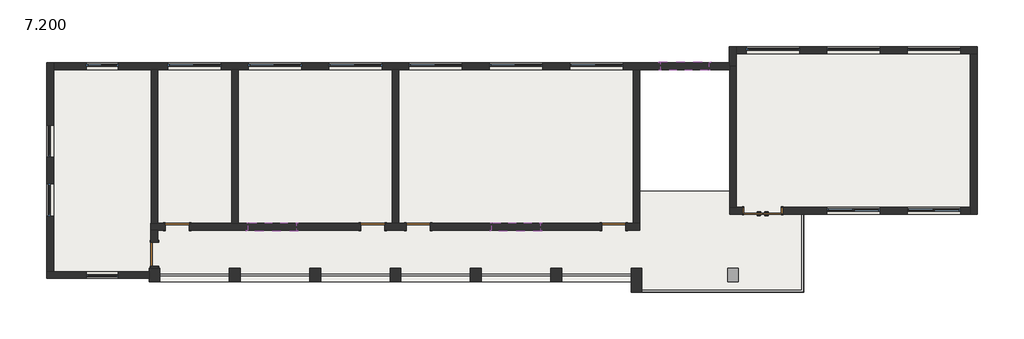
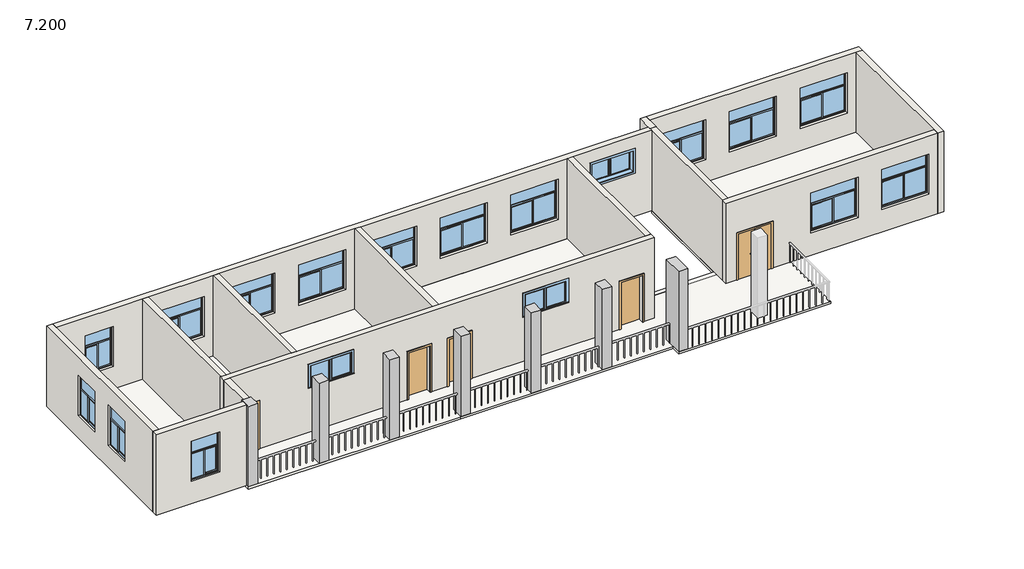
# One storey, part 1 of 2: 18 windows, 14 walls, 7 columns, 6 doors, 1 slab.
"""IFC4 building model written with IfcOpenShell, lengths in millimetres."""

from ifc_helpers import new_model, si_unit, frame, origin, place, context, project, spatial, polyline, outline, extrude, faceted_brep, transform, mapped, element, save
from components import column_400x500mm_8f91d95e, column_400x900mm_e0d5c409, m1_f3cb3123, m1_ab81c9c2, m2_54796214, c1_54542c8d, c2_93fe3833, c3_c6347dd0

model = new_model("IFC4")

# Units and contexts
model_context = context("Model", 3, world=origin())
ifc_project = project(units=[si_unit("LENGTHUNIT", "METRE", prefix="MILLI")], contexts=[model_context])

# Site, building, storey
site = spatial("IfcSite", under=ifc_project)
building = spatial("IfcBuilding", under=site)
storey = spatial("IfcBuildingStorey", under=building, Name="7.200", Elevation=7200.0)

# Columns
placement = place(None, origin())
element("IfcColumn", 1, ObjectType="混凝土 - 矩形 - 柱 : 400X500mm", at=placement, inside=storey, context=model_context, shape_type="Brep", body=[
    faceted_brep([(-19259.1214542, -25688.2373497, 7200.0), (-19259.1214542, -26188.2373497, 7200.0), (-19659.1214542, -26188.2373497, 7200.0), (-19659.1214542, -26068.2373497, 7200.0), (-19659.1214542, -25808.2373497, 7200.0), (-19659.1214542, -25688.2373497, 7200.0), (-19589.1214542, -25688.2373497, 7200.0), (-19329.1214542, -25688.2373497, 7200.0), (-19259.1214542, -25688.2373497, 10800.0), (-19259.1214542, -26188.2373497, 10800.0), (-19659.1214542, -26188.2373497, 10800.0), (-19659.1214542, -26068.2373497, 10800.0), (-19659.1214542, -25808.2373497, 10800.0), (-19659.1214542, -25688.2373497, 10800.0), (-19589.1214542, -25688.2373497, 10800.0), (-19329.1214542, -25688.2373497, 10800.0)], [[[0, 1, 2, 3, 4, 5, 6, 7]], [[8, 9, 1, 0]], [[9, 10, 2, 1]], [[10, 11, 12, 13, 5, 4, 3, 2]], [[13, 14, 15, 8, 0, 7, 6, 5]], [[8, 15, 14, 13, 12, 11, 10, 9]]]),
])
column_400x500mm_shape = column_400x500mm_8f91d95e(model_context)
element("IfcColumn", 2, ObjectType="混凝土 - 矩形 - 柱 : 400X500mm", at=placement, inside=storey, context=model_context, shape_type="MappedRepresentation", body=[
    mapped(column_400x500mm_shape, transform((-16459.1214542, -25938.2373497, 0.0), x_axis=(1.0, 0.0, 0.0), y_axis=(0.0, 1.0, 0.0), z_axis=(0.0, 0.0, 1.0))),
])
element("IfcColumn", 3, ObjectType="混凝土 - 矩形 - 柱 : 400X500mm", at=placement, inside=storey, context=model_context, shape_type="MappedRepresentation", body=[
    mapped(column_400x500mm_shape, transform((-13459.1214542, -25938.2373497, 0.0), x_axis=(1.0, 0.0, 0.0), y_axis=(0.0, 1.0, 0.0), z_axis=(0.0, 0.0, 1.0))),
])
element("IfcColumn", 4, ObjectType="混凝土 - 矩形 - 柱 : 400X500mm", at=placement, inside=storey, context=model_context, shape_type="MappedRepresentation", body=[
    mapped(column_400x500mm_shape, transform((-10459.1214542, -25938.2373497, 0.0), x_axis=(1.0, 0.0, 0.0), y_axis=(0.0, 1.0, 0.0), z_axis=(0.0, 0.0, 1.0))),
])
element("IfcColumn", 5, ObjectType="混凝土 - 矩形 - 柱 : 400X500mm", at=placement, inside=storey, context=model_context, shape_type="MappedRepresentation", body=[
    mapped(column_400x500mm_shape, transform((-7459.1214542, -25938.2373497, 0.0), x_axis=(1.0, 0.0, 0.0), y_axis=(0.0, 1.0, 0.0), z_axis=(0.0, 0.0, 1.0))),
])
element("IfcColumn", 6, ObjectType="混凝土 - 矩形 - 柱 : 400X500mm", at=placement, inside=storey, context=model_context, shape_type="MappedRepresentation", body=[
    mapped(column_400x500mm_shape, transform((-4459.1214542, -25938.2373497, 0.0), x_axis=(1.0, 0.0, 0.0), y_axis=(0.0, 1.0, 0.0), z_axis=(0.0, 0.0, 1.0))),
])
column_400x900mm_shape = column_400x900mm_e0d5c409(model_context)
element("IfcColumn", 7, ObjectType="混凝土 - 矩形 - 柱 : 400X900mm", at=placement, inside=storey, context=model_context, shape_type="MappedRepresentation", body=[
    mapped(column_400x900mm_shape, transform((-1459.1214542, -26138.2373497, 0.0), x_axis=(1.0, 0.0, 0.0), y_axis=(0.0, 1.0, 0.0), z_axis=(0.0, 0.0, 1.0))),
])

# Doors
m1_shape = m1_f3cb3123(model_context)
element("IfcDoor", 8, ObjectType="单扇 - 与墙齐 : M1", at=placement, inside=storey, context=model_context, shape_type="MappedRepresentation", body=[
    mapped(m1_shape, transform((-18609.1214542, -24138.2373497, 7200.0), x_axis=(-1.0, 0.0, 0.0), y_axis=(0.0, -1.0, 0.0), z_axis=(0.0, 0.0, 1.0))),
])
element("IfcDoor", 9, ObjectType="单扇 - 与墙齐 : M1", at=placement, inside=storey, context=model_context, shape_type="MappedRepresentation", body=[
    mapped(m1_shape, transform((-9609.1214542, -24138.2373497, 7200.0), x_axis=(-1.0, 0.0, 0.0), y_axis=(0.0, -1.0, 0.0), z_axis=(0.0, 0.0, 1.0))),
])
element("IfcDoor", 10, ObjectType="单扇 - 与墙齐 : M1", at=placement, inside=storey, context=model_context, shape_type="MappedRepresentation", body=[
    mapped(m1_shape, transform((-19459.1214542, -25168.2373497, 7200.0), x_axis=(0.0, -1.0, 0.0), y_axis=(1.0, 0.0, 0.0), z_axis=(0.0, 0.0, 1.0))),
])
m1_2_shape = m1_ab81c9c2(model_context)
element("IfcDoor", 11, ObjectType="单扇 - 与墙齐 : M1", at=placement, inside=storey, context=model_context, shape_type="MappedRepresentation", body=[
    mapped(m1_2_shape, transform((-11309.1214542, -24138.2373497, 7200.0), x_axis=(1.0, 0.0, 0.0), y_axis=(0.0, 1.0, 0.0), z_axis=(0.0, 0.0, 1.0))),
])
element("IfcDoor", 12, ObjectType="单扇 - 与墙齐 : M1", at=placement, inside=storey, context=model_context, shape_type="MappedRepresentation", body=[
    mapped(m1_2_shape, transform((-2309.1214542, -24138.2373497, 7200.0), x_axis=(1.0, 0.0, 0.0), y_axis=(0.0, 1.0, 0.0), z_axis=(0.0, 0.0, 1.0))),
])
m2_shape = m2_54796214(model_context)
element("IfcDoor", 13, ObjectType="双面嵌板木门 1 : M2", at=placement, inside=storey, context=model_context, shape_type="MappedRepresentation", body=[
    mapped(m2_shape, transform((3250.8785458, -23538.2373497, 7200.0), x_axis=(-1.0, 0.0, 0.0), y_axis=(0.0, -1.0, 0.0), z_axis=(0.0, 0.0, 1.0))),
])

# Slab
element("IfcSlab", 14, ObjectType="室内楼板", at=placement, inside=storey, context=model_context, shape_type="SweptSolid", body=[
    extrude(outline(polyline([(2260.8785458, -18268.2373497), (2260.8785458, -18138.2373497), (2270.8785458, -18138.2373497), (2270.8785458, -17668.2373497), (11010.8785458, -17668.2373497), (11010.8785458, -23408.2373497), (4790.8785458, -23408.2373497), (4790.8785458, -26588.2373497), (-1659.1214542, -26588.2373497), (-1659.1214542, -26188.2373497), (-10659.1214542, -26188.2373497), (-19659.1214542, -26188.2373497), (-19659.1214542, -25808.2373497), (-23229.1214542, -25808.2373497), (-23229.1214542, -18268.2373497), (-1339.1214542, -18268.2373497), (-1339.1214542, -22818.2373497), (2020.8785458, -22818.2373497), (2020.8785458, -18268.2373497), (2260.8785458, -18268.2373497)])), frame((0.0, 0.0, 7100.0), z_axis=(0.0, 0.0, 1.0), x_axis=(1.0, 0.0, 0.0)), (0.0, 0.0, 1.0), 100.0),
])

# Walls
element("IfcWall", 15, ObjectType="外墙", at=placement, inside=storey, context=model_context, shape_type="Brep", body=[
    faceted_brep([(-23489.1214542, -25808.2373497, 7200.0), (-23489.1214542, -25808.2373497, 10800.0), (-23229.1214542, -25808.2373497, 10800.0), (-19659.1214542, -25808.2373497, 10800.0), (-19659.1214542, -25808.2373497, 7200.0), (-23229.1214542, -25808.2373497, 7200.0), (-20809.1214542, -25808.2373497, 8200.0), (-20809.1214542, -25808.2373497, 10000.0), (-22009.1214542, -25808.2373497, 10000.0), (-22009.1214542, -25808.2373497, 8200.0), (-23489.1214542, -26068.2373497, 10800.0), (-23489.1214542, -26068.2373497, 7200.0), (-19659.1214542, -26068.2373497, 7200.0), (-19659.1214542, -26068.2373497, 10800.0), (-20809.1214542, -26068.2373497, 10000.0), (-20809.1214542, -26068.2373497, 8200.0), (-22009.1214542, -26068.2373497, 8200.0), (-22009.1214542, -26068.2373497, 10000.0)], [[[0, 1, 2, 3, 4, 5], [6, 7, 8, 9]], [[10, 11, 12, 13], [14, 15, 16, 17]], [[11, 0, 5, 4, 12]], [[1, 10, 13, 3, 2]], [[1, 0, 11, 10]], [[4, 3, 13, 12]], [[7, 6, 15, 14]], [[8, 7, 14, 17]], [[9, 8, 17, 16]], [[6, 9, 16, 15]]]),
])
element("IfcWall", 16, ObjectType="外墙", at=placement, inside=storey, context=model_context, shape_type="Brep", body=[
    faceted_brep([(-23229.1214542, -25808.2373497, 7200.0), (-23229.1214542, -18268.2373497, 7200.0), (-23229.1214542, -18008.2373497, 7200.0), (-23229.1214542, -18008.2373497, 10800.0), (-23229.1214542, -18268.2373497, 10800.0), (-23229.1214542, -25808.2373497, 10800.0), (-23229.1214542, -21538.2373497, 8200.0), (-23229.1214542, -21538.2373497, 10000.0), (-23229.1214542, -20338.2373497, 10000.0), (-23229.1214542, -20338.2373497, 8200.0), (-23229.1214542, -23738.2373497, 8200.0), (-23229.1214542, -23738.2373497, 10000.0), (-23229.1214542, -22538.2373497, 10000.0), (-23229.1214542, -22538.2373497, 8200.0), (-23489.1214542, -25808.2373497, 7200.0), (-23489.1214542, -25808.2373497, 10800.0), (-23489.1214542, -18008.2373497, 10800.0), (-23489.1214542, -18008.2373497, 7200.0), (-23489.1214542, -21538.2373497, 8200.0), (-23489.1214542, -20338.2373497, 8200.0), (-23489.1214542, -20338.2373497, 10000.0), (-23489.1214542, -21538.2373497, 10000.0), (-23489.1214542, -23738.2373497, 8200.0), (-23489.1214542, -22538.2373497, 8200.0), (-23489.1214542, -22538.2373497, 10000.0), (-23489.1214542, -23738.2373497, 10000.0)], [[[0, 1, 2, 3, 4, 5], [6, 7, 8, 9], [10, 11, 12, 13]], [[14, 15, 16, 17], [18, 19, 20, 21], [22, 23, 24, 25]], [[2, 1, 0, 14, 17]], [[5, 4, 3, 16, 15]], [[0, 5, 15, 14]], [[3, 2, 17, 16]], [[7, 6, 18, 21]], [[8, 7, 21, 20]], [[9, 8, 20, 19]], [[6, 9, 19, 18]], [[11, 10, 22, 25]], [[12, 11, 25, 24]], [[13, 12, 24, 23]], [[10, 13, 23, 22]]]),
])
element("IfcWall", 17, ObjectType="外墙", at=placement, inside=storey, context=model_context, shape_type="Brep", body=[
    faceted_brep([(-23229.1214542, -18268.2373497, 7200.0), (-19579.1214542, -18268.2373497, 7200.0), (-19339.1214542, -18268.2373497, 7200.0), (-16579.1214542, -18268.2373497, 7200.0), (-16339.1214542, -18268.2373497, 7200.0), (-10579.1214542, -18268.2373497, 7200.0), (-10339.1214542, -18268.2373497, 7200.0), (-1579.1214542, -18268.2373497, 7200.0), (-1339.1214542, -18268.2373497, 7200.0), (2020.8785458, -18268.2373497, 7200.0), (2020.8785458, -18268.2373497, 10800.0), (-1339.1214542, -18268.2373497, 10800.0), (-1579.1214542, -18268.2373497, 10800.0), (-10339.1214542, -18268.2373497, 10800.0), (-10579.1214542, -18268.2373497, 10800.0), (-16339.1214542, -18268.2373497, 10800.0), (-16579.1214542, -18268.2373497, 10800.0), (-19339.1214542, -18268.2373497, 10800.0), (-19579.1214542, -18268.2373497, 10800.0), (-23229.1214542, -18268.2373497, 10800.0), (-22009.1214542, -18268.2373497, 8200.0), (-22009.1214542, -18268.2373497, 10000.0), (-20809.1214542, -18268.2373497, 10000.0), (-20809.1214542, -18268.2373497, 8200.0), (-18959.1214542, -18268.2373497, 8200.0), (-18959.1214542, -18268.2373497, 10000.0), (-16959.1214542, -18268.2373497, 10000.0), (-16959.1214542, -18268.2373497, 8200.0), (-15959.1214542, -18268.2373497, 8200.0), (-15959.1214542, -18268.2373497, 10000.0), (-13959.1214542, -18268.2373497, 10000.0), (-13959.1214542, -18268.2373497, 8200.0), (-12959.1214542, -18268.2373497, 8200.0), (-12959.1214542, -18268.2373497, 10000.0), (-10959.1214542, -18268.2373497, 10000.0), (-10959.1214542, -18268.2373497, 8200.0), (-9959.1214542, -18268.2373497, 8200.0), (-9959.1214542, -18268.2373497, 10000.0), (-7959.1214542, -18268.2373497, 10000.0), (-7959.1214542, -18268.2373497, 8200.0), (-6959.1214542, -18268.2373497, 8200.0), (-6959.1214542, -18268.2373497, 10000.0), (-4959.1214542, -18268.2373497, 10000.0), (-4959.1214542, -18268.2373497, 8200.0), (-3959.1214542, -18268.2373497, 8200.0), (-3959.1214542, -18268.2373497, 10000.0), (-1959.1214542, -18268.2373497, 10000.0), (-1959.1214542, -18268.2373497, 8200.0), (1240.8785458, -18268.2373497, 10200.0), (1240.8785458, -18268.2373497, 9200.0), (-559.1214542, -18268.2373497, 9200.0), (-559.1214542, -18268.2373497, 10200.0), (-23229.1214542, -18008.2373497, 7200.0), (-23229.1214542, -18008.2373497, 10800.0), (2010.8785458, -18008.2373497, 10800.0), (2010.8785458, -18008.2373497, 7200.0), (-22009.1214542, -18008.2373497, 8200.0), (-20809.1214542, -18008.2373497, 8200.0), (-20809.1214542, -18008.2373497, 10000.0), (-22009.1214542, -18008.2373497, 10000.0), (-18959.1214542, -18008.2373497, 8200.0), (-16959.1214542, -18008.2373497, 8200.0), (-16959.1214542, -18008.2373497, 10000.0), (-18959.1214542, -18008.2373497, 10000.0), (-15959.1214542, -18008.2373497, 8200.0), (-13959.1214542, -18008.2373497, 8200.0), (-13959.1214542, -18008.2373497, 10000.0), (-15959.1214542, -18008.2373497, 10000.0), (-12959.1214542, -18008.2373497, 8200.0), (-10959.1214542, -18008.2373497, 8200.0), (-10959.1214542, -18008.2373497, 10000.0), (-12959.1214542, -18008.2373497, 10000.0), (-9959.1214542, -18008.2373497, 8200.0), (-7959.1214542, -18008.2373497, 8200.0), (-7959.1214542, -18008.2373497, 10000.0), (-9959.1214542, -18008.2373497, 10000.0), (-6959.1214542, -18008.2373497, 8200.0), (-4959.1214542, -18008.2373497, 8200.0), (-4959.1214542, -18008.2373497, 10000.0), (-6959.1214542, -18008.2373497, 10000.0), (-3959.1214542, -18008.2373497, 8200.0), (-1959.1214542, -18008.2373497, 8200.0), (-1959.1214542, -18008.2373497, 10000.0), (-3959.1214542, -18008.2373497, 10000.0), (1240.8785458, -18008.2373497, 10200.0), (-559.1214542, -18008.2373497, 10200.0), (-559.1214542, -18008.2373497, 9200.0), (1240.8785458, -18008.2373497, 9200.0), (2010.8785458, -18138.2373497, 7200.0), (2020.8785458, -18138.2373497, 7200.0), (2020.8785458, -18138.2373497, 10800.0), (2010.8785458, -18138.2373497, 10800.0)], [[[0, 1, 2, 3, 4, 5, 6, 7, 8, 9, 10, 11, 12, 13, 14, 15, 16, 17, 18, 19], [20, 21, 22, 23], [24, 25, 26, 27], [28, 29, 30, 31], [32, 33, 34, 35], [36, 37, 38, 39], [40, 41, 42, 43], [44, 45, 46, 47], [48, 49, 50, 51]], [[52, 53, 54, 55], [56, 57, 58, 59], [60, 61, 62, 63], [64, 65, 66, 67], [68, 69, 70, 71], [72, 73, 74, 75], [76, 77, 78, 79], [80, 81, 82, 83], [84, 85, 86, 87]], [[9, 8, 7, 6, 5, 4, 3, 2, 1, 0, 52, 55, 88, 89]], [[19, 18, 17, 16, 15, 14, 13, 12, 11, 10, 90, 91, 54, 53]], [[0, 19, 53, 52]], [[10, 9, 89, 90]], [[89, 88, 91, 90]], [[88, 55, 54, 91]], [[21, 20, 56, 59]], [[22, 21, 59, 58]], [[23, 22, 58, 57]], [[20, 23, 57, 56]], [[25, 24, 60, 63]], [[26, 25, 63, 62]], [[27, 26, 62, 61]], [[24, 27, 61, 60]], [[29, 28, 64, 67]], [[30, 29, 67, 66]], [[31, 30, 66, 65]], [[28, 31, 65, 64]], [[33, 32, 68, 71]], [[34, 33, 71, 70]], [[35, 34, 70, 69]], [[32, 35, 69, 68]], [[37, 36, 72, 75]], [[38, 37, 75, 74]], [[39, 38, 74, 73]], [[36, 39, 73, 72]], [[41, 40, 76, 79]], [[42, 41, 79, 78]], [[43, 42, 78, 77]], [[40, 43, 77, 76]], [[45, 44, 80, 83]], [[46, 45, 83, 82]], [[47, 46, 82, 81]], [[44, 47, 81, 80]], [[49, 48, 84, 87]], [[50, 49, 87, 86]], [[51, 50, 86, 85]], [[48, 51, 85, 84]]]),
])
element("IfcWall", 18, ObjectType="外墙", at=placement, inside=storey, context=model_context, shape_type="Brep", body=[
    faceted_brep([(11010.8785458, -17668.2373497, 7200.0), (11010.8785458, -23408.2373497, 7200.0), (11010.8785458, -23668.2373497, 7200.0), (11010.8785458, -23668.2373497, 10800.0), (11010.8785458, -23408.2373497, 10800.0), (11010.8785458, -17668.2373497, 10800.0), (11270.8785458, -17668.2373497, 7200.0), (11270.8785458, -17668.2373497, 10800.0), (11270.8785458, -23668.2373497, 10800.0), (11270.8785458, -23668.2373497, 7200.0)], [[[0, 1, 2, 3, 4, 5]], [[6, 7, 8, 9]], [[2, 1, 0, 6, 9]], [[5, 4, 3, 8, 7]], [[3, 2, 9, 8]], [[0, 5, 7, 6]]]),
])
element("IfcWall", 19, ObjectType="外墙", at=placement, inside=storey, context=model_context, shape_type="Brep", body=[
    faceted_brep([(2020.8785458, -23408.2373497, 10800.0), (2260.8785458, -23408.2373497, 10800.0), (11010.8785458, -23408.2373497, 10800.0), (11010.8785458, -23408.2373497, 7200.0), (4000.8785458, -23408.2373497, 7200.0), (4000.8785458, -23408.2373497, 9300.0), (2500.8785458, -23408.2373497, 9300.0), (2500.8785458, -23408.2373497, 7200.0), (2260.8785458, -23408.2373497, 7200.0), (2020.8785458, -23408.2373497, 7200.0), (8640.8785458, -23408.2373497, 8200.0), (10640.8785458, -23408.2373497, 8200.0), (10640.8785458, -23408.2373497, 10000.0), (8640.8785458, -23408.2373497, 10000.0), (5640.8785458, -23408.2373497, 8200.0), (7640.8785458, -23408.2373497, 8200.0), (7640.8785458, -23408.2373497, 10000.0), (5640.8785458, -23408.2373497, 10000.0), (11010.8785458, -23668.2373497, 10800.0), (2020.8785458, -23668.2373497, 10800.0), (2020.8785458, -23668.2373497, 7200.0), (2500.8785458, -23668.2373497, 7200.0), (2500.8785458, -23668.2373497, 9300.0), (4000.8785458, -23668.2373497, 9300.0), (4000.8785458, -23668.2373497, 7200.0), (11010.8785458, -23668.2373497, 7200.0), (8640.8785458, -23668.2373497, 8200.0), (8640.8785458, -23668.2373497, 10000.0), (10640.8785458, -23668.2373497, 10000.0), (10640.8785458, -23668.2373497, 8200.0), (5640.8785458, -23668.2373497, 8200.0), (5640.8785458, -23668.2373497, 10000.0), (7640.8785458, -23668.2373497, 10000.0), (7640.8785458, -23668.2373497, 8200.0)], [[[0, 1, 2, 3, 4, 5, 6, 7, 8, 9], [10, 11, 12, 13], [14, 15, 16, 17]], [[18, 19, 20, 21, 22, 23, 24, 25], [26, 27, 28, 29], [30, 31, 32, 33]], [[3, 25, 24, 4]], [[20, 9, 8, 7, 21]], [[2, 1, 0, 19, 18]], [[3, 2, 18, 25]], [[0, 9, 20, 19]], [[6, 22, 21, 7]], [[22, 6, 5, 23]], [[23, 5, 4, 24]], [[27, 26, 10, 13]], [[28, 27, 13, 12]], [[29, 28, 12, 11]], [[26, 29, 11, 10]], [[31, 30, 14, 17]], [[32, 31, 17, 16]], [[33, 32, 16, 15]], [[30, 33, 15, 14]]]),
])
element("IfcWall", 20, ObjectType="外墙", at=placement, inside=storey, context=model_context, shape_type="Brep", body=[
    faceted_brep([(-1339.1214542, -24008.2373497, 7200.0), (-1579.1214542, -24008.2373497, 7200.0), (-1859.1214542, -24008.2373497, 7200.0), (-1859.1214542, -24008.2373497, 9300.0), (-2759.1214542, -24008.2373497, 9300.0), (-2759.1214542, -24008.2373497, 7200.0), (-9159.1214542, -24008.2373497, 7200.0), (-9159.1214542, -24008.2373497, 9300.0), (-10059.1214542, -24008.2373497, 9300.0), (-10059.1214542, -24008.2373497, 7200.0), (-10339.1214542, -24008.2373497, 7200.0), (-10579.1214542, -24008.2373497, 7200.0), (-10859.1214542, -24008.2373497, 7200.0), (-10859.1214542, -24008.2373497, 9300.0), (-11759.1214542, -24008.2373497, 9300.0), (-11759.1214542, -24008.2373497, 7200.0), (-16339.1214542, -24008.2373497, 7200.0), (-16579.1214542, -24008.2373497, 7200.0), (-18159.1214542, -24008.2373497, 7200.0), (-18159.1214542, -24008.2373497, 9300.0), (-19059.1214542, -24008.2373497, 9300.0), (-19059.1214542, -24008.2373497, 7200.0), (-19339.1214542, -24008.2373497, 7200.0), (-19579.1214542, -24008.2373497, 7200.0), (-19589.1214542, -24008.2373497, 7200.0), (-19589.1214542, -24008.2373497, 10800.0), (-19579.1214542, -24008.2373497, 10800.0), (-19339.1214542, -24008.2373497, 10800.0), (-16579.1214542, -24008.2373497, 10800.0), (-16339.1214542, -24008.2373497, 10800.0), (-10579.1214542, -24008.2373497, 10800.0), (-10339.1214542, -24008.2373497, 10800.0), (-1579.1214542, -24008.2373497, 10800.0), (-1339.1214542, -24008.2373497, 10800.0), (-15959.1214542, -24008.2373497, 10200.0), (-15959.1214542, -24008.2373497, 9200.0), (-14159.1214542, -24008.2373497, 9200.0), (-14159.1214542, -24008.2373497, 10200.0), (-6859.1214542, -24008.2373497, 10200.0), (-6859.1214542, -24008.2373497, 9200.0), (-5059.1214542, -24008.2373497, 9200.0), (-5059.1214542, -24008.2373497, 10200.0), (-1859.1214542, -24268.2373497, 9300.0), (-1859.1214542, -24268.2373497, 7200.0), (-1339.1214542, -24268.2373497, 7200.0), (-1339.1214542, -24268.2373497, 10800.0), (-19329.1214542, -24268.2373497, 10800.0), (-19589.1214542, -24268.2373497, 10800.0), (-19589.1214542, -24268.2373497, 7200.0), (-19329.1214542, -24268.2373497, 7200.0), (-19059.1214542, -24268.2373497, 7200.0), (-19059.1214542, -24268.2373497, 9300.0), (-18159.1214542, -24268.2373497, 9300.0), (-18159.1214542, -24268.2373497, 7200.0), (-11759.1214542, -24268.2373497, 7200.0), (-11759.1214542, -24268.2373497, 9300.0), (-10859.1214542, -24268.2373497, 9300.0), (-10859.1214542, -24268.2373497, 7200.0), (-10059.1214542, -24268.2373497, 7200.0), (-10059.1214542, -24268.2373497, 9300.0), (-9159.1214542, -24268.2373497, 9300.0), (-9159.1214542, -24268.2373497, 7200.0), (-2759.1214542, -24268.2373497, 7200.0), (-2759.1214542, -24268.2373497, 9300.0), (-15959.1214542, -24268.2373497, 10200.0), (-14159.1214542, -24268.2373497, 10200.0), (-14159.1214542, -24268.2373497, 9200.0), (-15959.1214542, -24268.2373497, 9200.0), (-6859.1214542, -24268.2373497, 10200.0), (-5059.1214542, -24268.2373497, 10200.0), (-5059.1214542, -24268.2373497, 9200.0), (-6859.1214542, -24268.2373497, 9200.0)], [[[0, 1, 2, 3, 4, 5, 6, 7, 8, 9, 10, 11, 12, 13, 14, 15, 16, 17, 18, 19, 20, 21, 22, 23, 24, 25, 26, 27, 28, 29, 30, 31, 32, 33], [34, 35, 36, 37], [38, 39, 40, 41]], [[42, 43, 44, 45, 46, 47, 48, 49, 50, 51, 52, 53, 54, 55, 56, 57, 58, 59, 60, 61, 62, 63], [64, 65, 66, 67], [68, 69, 70, 71]], [[24, 23, 22, 21, 50, 49, 48]], [[54, 53, 18, 17, 16, 15]], [[58, 57, 12, 11, 10, 9]], [[62, 61, 6, 5]], [[44, 43, 2, 1, 0]], [[33, 32, 31, 30, 29, 28, 27, 26, 25, 47, 46, 45]], [[25, 24, 48, 47]], [[51, 50, 21, 20]], [[52, 51, 20, 19]], [[53, 52, 19, 18]], [[35, 34, 64, 67]], [[36, 35, 67, 66]], [[37, 36, 66, 65]], [[34, 37, 65, 64]], [[59, 58, 9, 8]], [[60, 59, 8, 7]], [[61, 60, 7, 6]], [[13, 12, 57, 56]], [[14, 13, 56, 55]], [[15, 14, 55, 54]], [[39, 38, 68, 71]], [[40, 39, 71, 70]], [[41, 40, 70, 69]], [[38, 41, 69, 68]], [[3, 2, 43, 42]], [[4, 3, 42, 63]], [[5, 4, 63, 62]], [[0, 33, 45, 44]]]),
])
element("IfcWall", 21, ObjectType="外墙", at=placement, inside=storey, context=model_context, shape_type="SweptSolid", body=[
    extrude(outline(polyline([(-24268.2373497, 10800.0), (-24268.2373497, 7200.0), (-24718.2373497, 7200.0), (-24718.2373497, 9300.0), (-25618.2373497, 9300.0), (-25618.2373497, 7200.0), (-25688.2373497, 7200.0), (-25688.2373497, 10800.0), (-24268.2373497, 10800.0)])), frame((-19589.1214542, 0.0, 0.0), z_axis=(1.0, 0.0, 0.0), x_axis=(0.0, 1.0, 0.0)), (0.0, 0.0, 1.0), 260.0),
])
element("IfcWall", 22, ObjectType="内墙", at=placement, inside=storey, context=model_context, shape_type="SweptSolid", body=[
    extrude(outline(polyline([(-19579.1214542, -24008.2373497), (-19579.1214542, -18268.2373497), (-19339.1214542, -18268.2373497), (-19339.1214542, -24008.2373497), (-19579.1214542, -24008.2373497)])), frame((0.0, 0.0, 7200.0), z_axis=(0.0, 0.0, 1.0), x_axis=(1.0, 0.0, 0.0)), (0.0, 0.0, 1.0), 3600.0),
])
element("IfcWall", 23, ObjectType="内墙", at=placement, inside=storey, context=model_context, shape_type="SweptSolid", body=[
    extrude(outline(polyline([(-10579.1214542, -24008.2373497), (-10579.1214542, -18268.2373497), (-10339.1214542, -18268.2373497), (-10339.1214542, -24008.2373497), (-10579.1214542, -24008.2373497)])), frame((0.0, 0.0, 7200.0), z_axis=(0.0, 0.0, 1.0), x_axis=(1.0, 0.0, 0.0)), (0.0, 0.0, 1.0), 3600.0),
])
element("IfcWall", 24, ObjectType="内墙", at=placement, inside=storey, context=model_context, shape_type="SweptSolid", body=[
    extrude(outline(polyline([(-1579.1214542, -24008.2373497), (-1579.1214542, -18268.2373497), (-1339.1214542, -18268.2373497), (-1339.1214542, -24008.2373497), (-1579.1214542, -24008.2373497)])), frame((0.0, 0.0, 7200.0), z_axis=(0.0, 0.0, 1.0), x_axis=(1.0, 0.0, 0.0)), (0.0, 0.0, 1.0), 3600.0),
])
element("IfcWall", 25, ObjectType="内墙", at=placement, inside=storey, context=model_context, shape_type="Brep", body=[
    faceted_brep([(2020.8785458, -18138.2373497, 7200.0), (2020.8785458, -18268.2373497, 7200.0), (2020.8785458, -23408.2373497, 7200.0), (2020.8785458, -23408.2373497, 10800.0), (2020.8785458, -18268.2373497, 10800.0), (2020.8785458, -18138.2373497, 10800.0), (2260.8785458, -18138.2373497, 7200.0), (2260.8785458, -18138.2373497, 10800.0), (2260.8785458, -23408.2373497, 10800.0), (2260.8785458, -23408.2373497, 7200.0)], [[[0, 1, 2, 3, 4, 5]], [[6, 7, 8, 9]], [[2, 1, 0, 6, 9]], [[5, 4, 3, 8, 7]], [[0, 5, 7, 6]], [[3, 2, 9, 8]]]),
])
element("IfcWall", 26, ObjectType="外墙", at=placement, inside=storey, context=model_context, shape_type="Brep", body=[
    faceted_brep([(2270.8785458, -18138.2373497, 7200.0), (2270.8785458, -17668.2373497, 7200.0), (2270.8785458, -17408.2373497, 7200.0), (2270.8785458, -17408.2373497, 10800.0), (2270.8785458, -17668.2373497, 10800.0), (2270.8785458, -18138.2373497, 10800.0), (2010.8785458, -18138.2373497, 7200.0), (2010.8785458, -18138.2373497, 10800.0), (2010.8785458, -18008.2373497, 10800.0), (2010.8785458, -17408.2373497, 10800.0), (2010.8785458, -17408.2373497, 7200.0), (2010.8785458, -18008.2373497, 7200.0), (2260.8785458, -18138.2373497, 7200.0), (2020.8785458, -18138.2373497, 7200.0), (2020.8785458, -18138.2373497, 10800.0), (2260.8785458, -18138.2373497, 10800.0)], [[[0, 1, 2, 3, 4, 5]], [[6, 7, 8, 9, 10, 11]], [[2, 1, 0, 12, 13, 6, 11, 10]], [[5, 4, 3, 9, 8, 7, 14, 15]], [[0, 5, 15, 14, 7, 6, 13, 12]], [[3, 2, 10, 9]]]),
])
element("IfcWall", 27, ObjectType="外墙", at=placement, inside=storey, context=model_context, shape_type="Brep", body=[
    faceted_brep([(2270.8785458, -17668.2373497, 7200.0), (11010.8785458, -17668.2373497, 7200.0), (11270.8785458, -17668.2373497, 7200.0), (11270.8785458, -17668.2373497, 10800.0), (11010.8785458, -17668.2373497, 10800.0), (2270.8785458, -17668.2373497, 10800.0), (2640.8785458, -17668.2373497, 8200.0), (2640.8785458, -17668.2373497, 10000.0), (4640.8785458, -17668.2373497, 10000.0), (4640.8785458, -17668.2373497, 8200.0), (5640.8785458, -17668.2373497, 8200.0), (5640.8785458, -17668.2373497, 10000.0), (7640.8785458, -17668.2373497, 10000.0), (7640.8785458, -17668.2373497, 8200.0), (8640.8785458, -17668.2373497, 8200.0), (8640.8785458, -17668.2373497, 10000.0), (10640.8785458, -17668.2373497, 10000.0), (10640.8785458, -17668.2373497, 8200.0), (2270.8785458, -17408.2373497, 7200.0), (2270.8785458, -17408.2373497, 10800.0), (11270.8785458, -17408.2373497, 10800.0), (11270.8785458, -17408.2373497, 7200.0), (2640.8785458, -17408.2373497, 8200.0), (4640.8785458, -17408.2373497, 8200.0), (4640.8785458, -17408.2373497, 10000.0), (2640.8785458, -17408.2373497, 10000.0), (5640.8785458, -17408.2373497, 8200.0), (7640.8785458, -17408.2373497, 8200.0), (7640.8785458, -17408.2373497, 10000.0), (5640.8785458, -17408.2373497, 10000.0), (8640.8785458, -17408.2373497, 8200.0), (10640.8785458, -17408.2373497, 8200.0), (10640.8785458, -17408.2373497, 10000.0), (8640.8785458, -17408.2373497, 10000.0)], [[[0, 1, 2, 3, 4, 5], [6, 7, 8, 9], [10, 11, 12, 13], [14, 15, 16, 17]], [[18, 19, 20, 21], [22, 23, 24, 25], [26, 27, 28, 29], [30, 31, 32, 33]], [[2, 1, 0, 18, 21]], [[5, 4, 3, 20, 19]], [[0, 5, 19, 18]], [[3, 2, 21, 20]], [[7, 6, 22, 25]], [[8, 7, 25, 24]], [[9, 8, 24, 23]], [[6, 9, 23, 22]], [[11, 10, 26, 29]], [[12, 11, 29, 28]], [[13, 12, 28, 27]], [[10, 13, 27, 26]], [[15, 14, 30, 33]], [[16, 15, 33, 32]], [[17, 16, 32, 31]], [[14, 17, 31, 30]]]),
])
element("IfcWall", 28, ObjectType="内墙", at=placement, inside=storey, context=model_context, shape_type="SweptSolid", body=[
    extrude(outline(polyline([(-16579.1214542, -24008.2373497), (-16579.1214542, -18268.2373497), (-16339.1214542, -18268.2373497), (-16339.1214542, -24008.2373497), (-16579.1214542, -24008.2373497)])), frame((0.0, 0.0, 7200.0), z_axis=(0.0, 0.0, 1.0), x_axis=(1.0, 0.0, 0.0)), (0.0, 0.0, 1.0), 3600.0),
])

# Windows
c1_shape = c1_54542c8d(model_context)
element("IfcWindow", 29, ObjectType="组合窗 - 双层单列(固定+推拉) : C1", at=placement, inside=storey, context=model_context, shape_type="MappedRepresentation", body=[
    mapped(c1_shape, transform((-21409.1214542, -25938.2373497, 7200.0), x_axis=(-1.0, 0.0, 0.0), y_axis=(0.0, -1.0, 0.0), z_axis=(0.0, 0.0, 1.0))),
])
element("IfcWindow", 30, ObjectType="组合窗 - 双层单列(固定+推拉) : C1", at=placement, inside=storey, context=model_context, shape_type="MappedRepresentation", body=[
    mapped(c1_shape, transform((-21409.1214542, -18138.2373497, 7200.0), x_axis=(1.0, 0.0, 0.0), y_axis=(0.0, 1.0, 0.0), z_axis=(0.0, 0.0, 1.0))),
])
element("IfcWindow", 31, ObjectType="组合窗 - 双层单列(固定+推拉) : C1", at=placement, inside=storey, context=model_context, shape_type="MappedRepresentation", body=[
    mapped(c1_shape, transform((-23359.1214542, -20938.2373497, 7200.0), x_axis=(0.0, 1.0, 0.0), y_axis=(-1.0, 0.0, 0.0), z_axis=(0.0, 0.0, 1.0))),
])
element("IfcWindow", 32, ObjectType="组合窗 - 双层单列(固定+推拉) : C1", at=placement, inside=storey, context=model_context, shape_type="MappedRepresentation", body=[
    mapped(c1_shape, transform((-23359.1214542, -23138.2373497, 7200.0), x_axis=(0.0, 1.0, 0.0), y_axis=(-1.0, 0.0, 0.0), z_axis=(0.0, 0.0, 1.0))),
])
c2_shape = c2_93fe3833(model_context)
element("IfcWindow", 33, ObjectType="组合窗 - 双层单列(固定+推拉) : C2", at=placement, inside=storey, context=model_context, shape_type="MappedRepresentation", body=[
    mapped(c2_shape, transform((-17959.1214542, -18138.2373497, 7200.0), x_axis=(1.0, 0.0, 0.0), y_axis=(0.0, 1.0, 0.0), z_axis=(0.0, 0.0, 1.0))),
])
element("IfcWindow", 34, ObjectType="组合窗 - 双层单列(固定+推拉) : C2", at=placement, inside=storey, context=model_context, shape_type="MappedRepresentation", body=[
    mapped(c2_shape, transform((-14959.1214542, -18138.2373497, 7200.0), x_axis=(1.0, 0.0, 0.0), y_axis=(0.0, 1.0, 0.0), z_axis=(0.0, 0.0, 1.0))),
])
element("IfcWindow", 35, ObjectType="组合窗 - 双层单列(固定+推拉) : C2", at=placement, inside=storey, context=model_context, shape_type="MappedRepresentation", body=[
    mapped(c2_shape, transform((-11959.1214542, -18138.2373497, 7200.0), x_axis=(1.0, 0.0, 0.0), y_axis=(0.0, 1.0, 0.0), z_axis=(0.0, 0.0, 1.0))),
])
element("IfcWindow", 36, ObjectType="组合窗 - 双层单列(固定+推拉) : C2", at=placement, inside=storey, context=model_context, shape_type="MappedRepresentation", body=[
    mapped(c2_shape, transform((-8959.1214542, -18138.2373497, 7200.0), x_axis=(1.0, 0.0, 0.0), y_axis=(0.0, 1.0, 0.0), z_axis=(0.0, 0.0, 1.0))),
])
element("IfcWindow", 37, ObjectType="组合窗 - 双层单列(固定+推拉) : C2", at=placement, inside=storey, context=model_context, shape_type="MappedRepresentation", body=[
    mapped(c2_shape, transform((-5959.1214542, -18138.2373497, 7200.0), x_axis=(1.0, 0.0, 0.0), y_axis=(0.0, 1.0, 0.0), z_axis=(0.0, 0.0, 1.0))),
])
element("IfcWindow", 38, ObjectType="组合窗 - 双层单列(固定+推拉) : C2", at=placement, inside=storey, context=model_context, shape_type="MappedRepresentation", body=[
    mapped(c2_shape, transform((-2959.1214542, -18138.2373497, 7200.0), x_axis=(1.0, 0.0, 0.0), y_axis=(0.0, 1.0, 0.0), z_axis=(0.0, 0.0, 1.0))),
])
element("IfcWindow", 39, ObjectType="组合窗 - 双层单列(固定+推拉) : C2", at=placement, inside=storey, context=model_context, shape_type="MappedRepresentation", body=[
    mapped(c2_shape, transform((3640.8785458, -17538.2373497, 7200.0), x_axis=(1.0, 0.0, 0.0), y_axis=(0.0, 1.0, 0.0), z_axis=(0.0, 0.0, 1.0))),
])
element("IfcWindow", 40, ObjectType="组合窗 - 双层单列(固定+推拉) : C2", at=placement, inside=storey, context=model_context, shape_type="MappedRepresentation", body=[
    mapped(c2_shape, transform((6640.8785458, -17538.2373497, 7200.0), x_axis=(1.0, 0.0, 0.0), y_axis=(0.0, 1.0, 0.0), z_axis=(0.0, 0.0, 1.0))),
])
element("IfcWindow", 41, ObjectType="组合窗 - 双层单列(固定+推拉) : C2", at=placement, inside=storey, context=model_context, shape_type="MappedRepresentation", body=[
    mapped(c2_shape, transform((9640.8785458, -17538.2373497, 7200.0), x_axis=(1.0, 0.0, 0.0), y_axis=(0.0, 1.0, 0.0), z_axis=(0.0, 0.0, 1.0))),
])
element("IfcWindow", 42, ObjectType="组合窗 - 双层单列(固定+推拉) : C2", at=placement, inside=storey, context=model_context, shape_type="MappedRepresentation", body=[
    mapped(c2_shape, transform((6640.8785458, -23538.2373497, 7200.0), x_axis=(1.0, 0.0, 0.0), y_axis=(0.0, 1.0, 0.0), z_axis=(0.0, 0.0, 1.0))),
])
element("IfcWindow", 43, ObjectType="组合窗 - 双层单列(固定+推拉) : C2", at=placement, inside=storey, context=model_context, shape_type="MappedRepresentation", body=[
    mapped(c2_shape, transform((9640.8785458, -23538.2373497, 7200.0), x_axis=(1.0, 0.0, 0.0), y_axis=(0.0, 1.0, 0.0), z_axis=(0.0, 0.0, 1.0))),
])
c3_shape = c3_c6347dd0(model_context)
element("IfcWindow", 44, ObjectType="双扇平开 - 带贴面 : C3", at=placement, inside=storey, context=model_context, shape_type="MappedRepresentation", body=[
    mapped(c3_shape, transform((340.8785458, -18138.2373497, 7199.0), x_axis=(1.0, 0.0, 0.0), y_axis=(0.0, 1.0, 0.0), z_axis=(0.0, 0.0, 1.0))),
])
element("IfcWindow", 45, ObjectType="双扇平开 - 带贴面 : C3", at=placement, inside=storey, context=model_context, shape_type="MappedRepresentation", body=[
    mapped(c3_shape, transform((-15059.1214542, -24138.2373497, 7199.0), x_axis=(-1.0, 0.0, 0.0), y_axis=(0.0, -1.0, 0.0), z_axis=(0.0, 0.0, 1.0))),
])
element("IfcWindow", 46, ObjectType="双扇平开 - 带贴面 : C3", at=placement, inside=storey, context=model_context, shape_type="MappedRepresentation", body=[
    mapped(c3_shape, transform((-5959.1214542, -24138.2373497, 7199.0), x_axis=(-1.0, 0.0, 0.0), y_axis=(0.0, -1.0, 0.0), z_axis=(0.0, 0.0, 1.0))),
])

save(model, "model.ifc")
